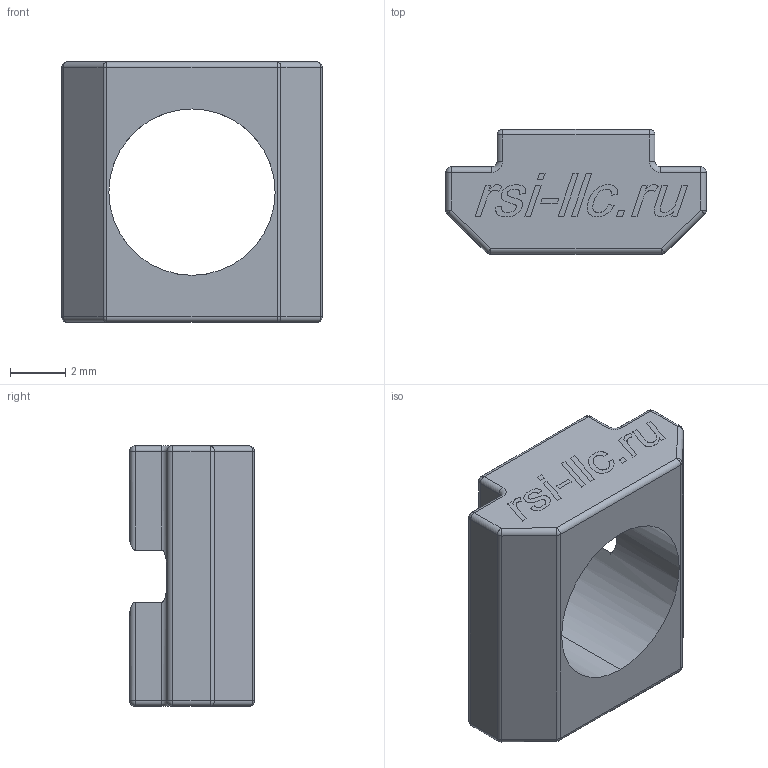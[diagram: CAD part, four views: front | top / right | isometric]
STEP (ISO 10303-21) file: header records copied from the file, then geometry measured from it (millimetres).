
FILE_DESCRIPTION (( 'STEP AP214' ), '1' );
FILE_NAME ('5271 SS304 (îáëåã÷åííûé).STEP', '2023-03-29T06:59:38', ( '' ), ( '' ), 'SwSTEP 2.0', 'SolidWorks 2020', '' );
FILE_SCHEMA (( 'AUTOMOTIVE_DESIGN' ));
Length unit declared in the file: millimetre
Products named in the file (1): 5271 SS304 (îáëåã÷åííûé)
Bounding box: 9.4 x 4.5 x 9.41 mm (x, y, z)
Volume: 206.2 mm3; surface area: 388.5 mm2
Topology: 12 solids, 12 shells, 174 faces, 409 edges, 246 vertices
Faces by surface type: plane 88, cylinder 34, bspline 32, sphere 16, torus 4
Entity records: 7901 total; most frequent: CARTESIAN_POINT 2880, ORIENTED_EDGE 794, DIRECTION 683, EDGE_CURVE 397, VECTOR 257, LINE 257, VERTEX_POINT 246, AXIS2_PLACEMENT_3D 213
